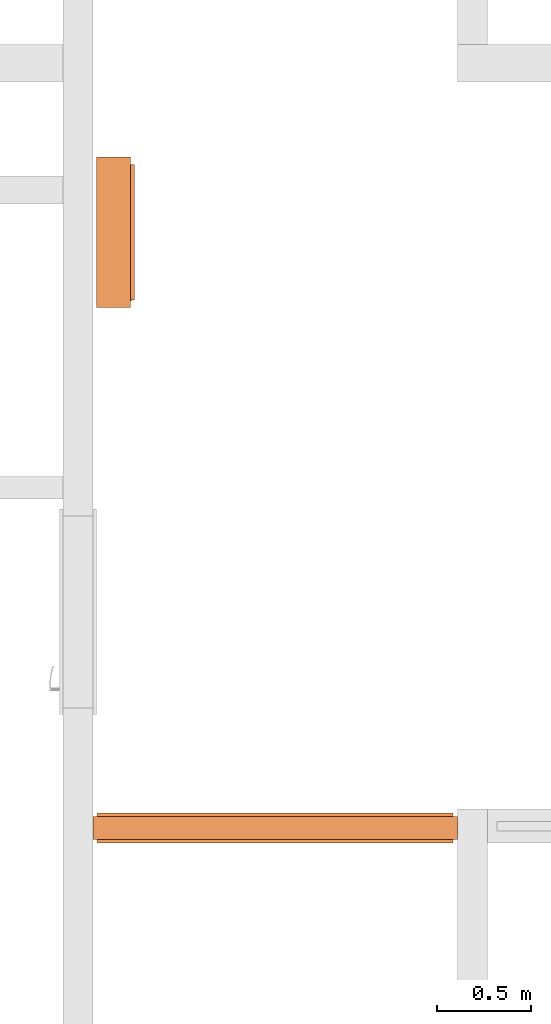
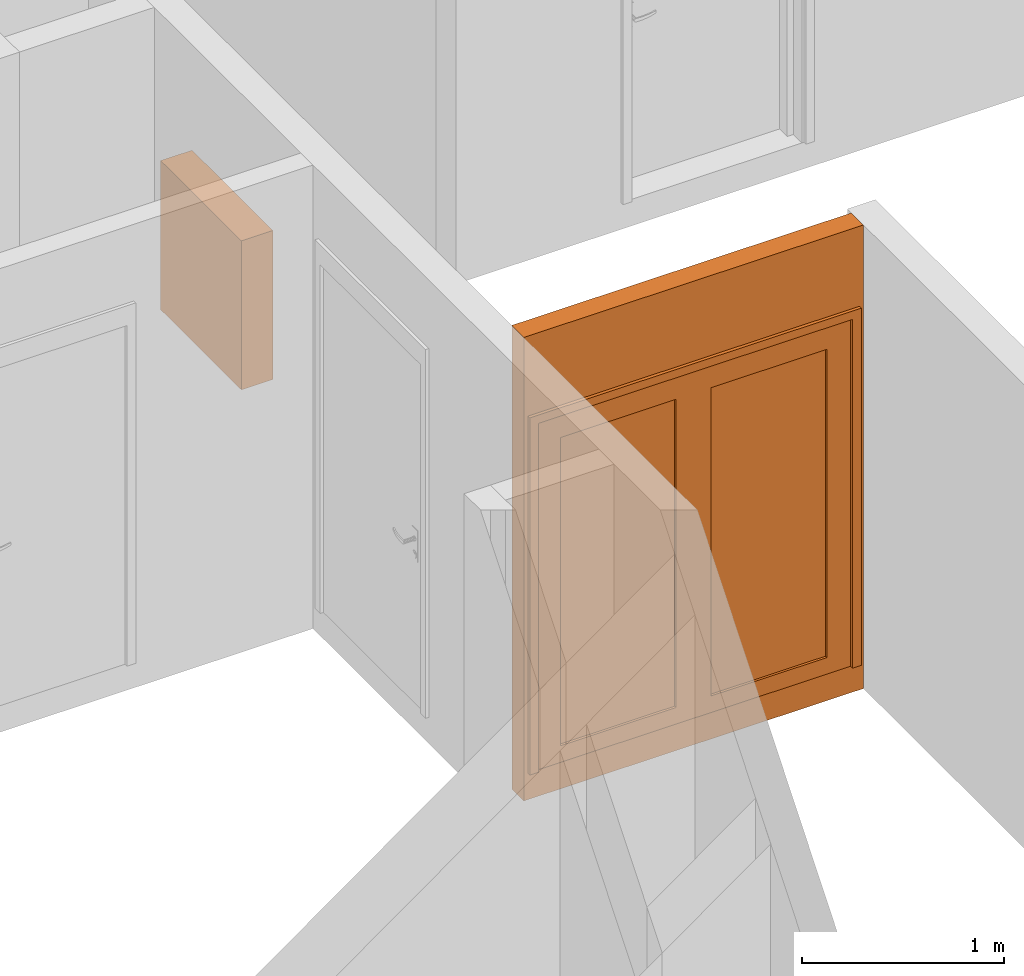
# One storey, part 14 of 64: 3 proxies, 1 opening.
"""IFC2X3 building model written with IfcOpenShell, lengths in millimetres."""

from ifc_helpers import new_model, entity, si_unit, converted_unit, derived_unit, money_unit, direction, frame, origin_with_axes, origin_2d_with_axis, place, context, subcontext, project, spatial, rectangle, extrude, open_shell, faceted_brep, surface_model, source, transform, mapped, material, type_object, element, fill, save


model = new_model("IFC2X3")

# Units and contexts
model_context = context("Model", 3, precision=0.01, world=origin_with_axes(), true_north=direction((0.34421633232, 0.938890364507)))
body_context = subcontext(model_context, "Body", "Model", "MODEL_VIEW")
ifc_project = project(units=[si_unit("LENGTHUNIT", "METRE", prefix="MILLI"), si_unit("AREAUNIT", "SQUARE_METRE"), si_unit("VOLUMEUNIT", "CUBIC_METRE"), converted_unit("PLANEANGLEUNIT", "DEGREE", entity("IfcPlaneAngleMeasure", 0.0174532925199), si_unit("PLANEANGLEUNIT", "RADIAN"), dimensions=[0, 0, 0, 0, 0, 0, 0]), si_unit("SOLIDANGLEUNIT", "STERADIAN"), money_unit("USD"), converted_unit("TIMEUNIT", "Year", entity("IfcTimeMeasure", 31556926.0), si_unit("TIMEUNIT", "SECOND"), dimensions=[0, 0, 1, 0, 0, 0, 0]), si_unit("MASSUNIT", "GRAM", prefix="KILO"), si_unit("THERMODYNAMICTEMPERATUREUNIT", "DEGREE_CELSIUS"), si_unit("LUMINOUSINTENSITYUNIT", "LUMEN"), si_unit("ENERGYUNIT", "JOULE", prefix="MEGA"), derived_unit("THERMALCONDUCTANCEUNIT", [(si_unit("POWERUNIT", "WATT"), 1), (si_unit("LENGTHUNIT", "METRE"), -1), (si_unit("THERMODYNAMICTEMPERATUREUNIT", "KELVIN"), -1)]), derived_unit("SPECIFICHEATCAPACITYUNIT", [(si_unit("ENERGYUNIT", "JOULE"), 1), (si_unit("MASSUNIT", "GRAM", prefix="KILO"), -1), (si_unit("THERMODYNAMICTEMPERATUREUNIT", "KELVIN"), -1)]), derived_unit("MASSDENSITYUNIT", [(si_unit("MASSUNIT", "GRAM", prefix="KILO"), 1), (si_unit("VOLUMEUNIT", "CUBIC_METRE"), -1)])], contexts=[model_context])

# Site, building, storey
site_placement = place(None, origin_with_axes())
site = spatial("IfcSite", under=ifc_project, at=site_placement, Name="USTRONIE MORSKIE", CompositionType="ELEMENT")
building_placement = place(site_placement, origin_with_axes())
building = spatial("IfcBuilding", under=site, at=building_placement, Name="Budynek", CompositionType="ELEMENT")
storey_placement = place(building_placement, frame((0.0, 0.0, 7000.0), z_axis=(0.0, 0.0, 1.0), x_axis=(1.0, 0.0, 0.0)))
storey = spatial("IfcBuildingStorey", under=building, at=storey_placement, Name="PIĘTRO 2", CompositionType="ELEMENT", Elevation=7000.0)

# Proxies, opening
ifc_material = material(Name="Bloczki silikatowe")
building_element_proxy_type_1 = type_object("IfcBuildingElementProxyType", Name="Bloczki silikatowe 120", PredefinedType="NOTDEFINED")
proxy_1_placement = place(storey_placement, frame((357517.920919, 734731.201951, -160.0), z_axis=(0.0, 0.0, 1.0), x_axis=(0.999999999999, -1.3878320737e-06, 0.0)))
proxy_1 = element("IfcBuildingElementProxy", 1, at=proxy_1_placement, inside=storey, type_object=building_element_proxy_type_1, material=ifc_material, Name="SW-04", context=body_context, shape_type="Brep", body=[
    faceted_brep([(2019.99991673, 60.0000000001, 0.0), (2020.00008327, -59.9999999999, 0.0), (80.00008327, -59.9999999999, 0.0), (79.9999167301, 60.0000000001, 0.0), (2019.99991673, 60.0000000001, 2800.0), (2020.00008327, -59.9999999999, 2800.0), (80.00008327, -59.9999999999, 2800.0), (79.9999167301, 60.0000000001, 2800.0)], [[[0, 1, 2, 3]], [[1, 0, 4, 5]], [[1, 5, 6, 2]], [[7, 3, 2, 6]], [[4, 0, 3, 7]], [[5, 4, 7, 6]]]),
])
opening_placement = place(proxy_1_placement, frame((1050.00013878, -1.13686837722e-10, 160.0), z_axis=(0.0, 0.0, 1.0), x_axis=(1.0, 0.0, 0.0)))
opening = element("IfcOpeningElement", 2, at=opening_placement, cuts=proxy_1, Name="Dw.5", context=body_context, shape_type="SweptSolid", body=[
    extrude(rectangle(XDim=1820.0, YDim=2120.0, at=origin_2d_with_axis()), frame((0.0, 120.0, 1060.0), z_axis=(0.0, 1.0, 0.0), x_axis=(1.0, 0.0, 0.0)), (0.0, 0.0, -1.0), 360.0),
    extrude(rectangle(XDim=1894.0, YDim=2157.0, at=origin_2d_with_axis()), frame((0.0, 60.0000000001, 1078.5), z_axis=(0.0, 1.0, 0.0), x_axis=(1.0, 0.0, 0.0)), (0.0, 0.0, 1.0), 120.0),
    extrude(rectangle(XDim=1894.0, YDim=2157.0, at=origin_2d_with_axis()), frame((0.0, -59.9999999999, 1078.5), z_axis=(0.0, -1.0, 0.0), x_axis=(1.0, 0.0, 0.0)), (0.0, 0.0, 1.0), 120.0),
])
building_element_proxy_type_2 = type_object("IfcBuildingElementProxyType", Name="Drzwi podwójne 23", PredefinedType="NOTDEFINED")
shared_shape_1 = source(origin_with_axes(), body_context, "Body", "SurfaceModel", [
    faceted_brep([(910.0, -115.0, 0.0), (910.0, -120.0, 0.0), (885.0, -120.0, 0.0), (885.0, -115.0, 0.0), (910.0, -115.0, 2120.0), (910.0, -120.0, 2120.0), (885.0, -120.0, 2095.0), (885.0, -115.0, 2095.0)], [[[0, 1, 2, 3]], [[4, 5, 1, 0]], [[1, 5, 6, 2]], [[3, 2, 6, 7]], [[0, 3, 7, 4]], [[7, 6, 5, 4]]]),
    faceted_brep([(-910.0, -115.0, 2120.0), (-910.0, -120.0, 2120.0), (-885.0, -120.0, 2095.0), (-885.0, -115.0, 2095.0), (-910.0, -115.0, 0.0), (-910.0, -120.0, 0.0), (-885.0, -120.0, 0.0), (-885.0, -115.0, 0.0)], [[[0, 1, 2, 3]], [[4, 5, 1, 0]], [[1, 5, 6, 2]], [[3, 2, 6, 7]], [[0, 3, 7, 4]], [[7, 6, 5, 4]]]),
    faceted_brep([(885.0, -115.0, 2095.0), (885.0, -120.0, 2095.0), (-885.0, -120.0, 2095.0), (-885.0, -115.0, 2095.0), (910.0, -115.0, 2120.0), (910.0, -120.0, 2120.0), (-910.0, -120.0, 2120.0), (-910.0, -115.0, 2120.0)], [[[0, 1, 2, 3]], [[4, 5, 1, 0]], [[1, 5, 6, 2]], [[3, 2, 6, 7]], [[0, 3, 7, 4]], [[7, 6, 5, 4]]]),
    faceted_brep([(947.0, -139.0, 0.0), (897.0, -139.0, 0.0), (897.0, -120.0, 0.0), (947.0, -120.0, 0.0), (947.0, -139.0, 2157.0), (897.0, -139.0, 2107.0), (897.0, -120.0, 2107.0), (947.0, -120.0, 2157.0)], [[[0, 1, 2, 3]], [[0, 4, 5, 1]], [[1, 5, 6, 2]], [[3, 2, 6, 7]], [[4, 0, 3, 7]], [[5, 4, 7, 6]]]),
    faceted_brep([(-947.0, -139.0, 2157.0), (-897.0, -139.0, 2107.0), (-897.0, -120.0, 2107.0), (-947.0, -120.0, 2157.0), (-947.0, -139.0, 0.0), (-897.0, -139.0, 0.0), (-897.0, -120.0, 0.0), (-947.0, -120.0, 0.0)], [[[0, 1, 2, 3]], [[0, 4, 5, 1]], [[1, 5, 6, 2]], [[3, 2, 6, 7]], [[4, 0, 3, 7]], [[5, 4, 7, 6]]]),
    faceted_brep([(947.0, -139.0, 2157.0), (897.0, -139.0, 2107.0), (897.0, -120.0, 2107.0), (947.0, -120.0, 2157.0), (-947.0, -139.0, 2157.0), (-897.0, -139.0, 2107.0), (-897.0, -120.0, 2107.0), (-947.0, -120.0, 2157.0)], [[[0, 1, 2, 3]], [[0, 4, 5, 1]], [[1, 5, 6, 2]], [[3, 2, 6, 7]], [[4, 0, 3, 7]], [[5, 4, 7, 6]]]),
    faceted_brep([(947.0, 19.0, 0.0), (947.0, 0.0, 0.0), (897.0, 0.0, 0.0), (897.0, 19.0, 0.0), (947.0, 19.0, 2157.0), (947.0, 0.0, 2157.0), (897.0, 0.0, 2107.0), (897.0, 19.0, 2107.0)], [[[0, 1, 2, 3]], [[4, 5, 1, 0]], [[1, 5, 6, 2]], [[3, 2, 6, 7]], [[0, 3, 7, 4]], [[7, 6, 5, 4]]]),
    faceted_brep([(-947.0, 19.0, 2157.0), (-947.0, 0.0, 2157.0), (-897.0, 0.0, 2107.0), (-897.0, 19.0, 2107.0), (-947.0, 19.0, 0.0), (-947.0, 0.0, 0.0), (-897.0, 0.0, 0.0), (-897.0, 19.0, 0.0)], [[[0, 1, 2, 3]], [[4, 5, 1, 0]], [[1, 5, 6, 2]], [[3, 2, 6, 7]], [[0, 3, 7, 4]], [[7, 6, 5, 4]]]),
    faceted_brep([(947.0, 19.0, 2157.0), (947.0, 0.0, 2157.0), (897.0, 0.0, 2107.0), (897.0, 19.0, 2107.0), (-947.0, 19.0, 2157.0), (-947.0, 0.0, 2157.0), (-897.0, 0.0, 2107.0), (-897.0, 19.0, 2107.0)], [[[0, 1, 2, 3]], [[4, 5, 1, 0]], [[1, 5, 6, 2]], [[3, 2, 6, 7]], [[0, 3, 7, 4]], [[7, 6, 5, 4]]]),
    faceted_brep([(850.0, -40.0, 0.0), (850.0, -115.0, 0.0), (850.0, -115.0, 2050.0), (850.0, -40.0, 2050.0), (862.0, -40.0, 0.0), (862.0, 0.0, 0.0), (910.0, 0.0, 0.0), (910.0, -115.0, 0.0), (910.0, -115.0, 2050.0), (862.0, -40.0, 2050.0), (910.0, 0.0, 2050.0), (862.0, 0.0, 2050.0)], [[[0, 1, 2, 3]], [[4, 5, 6, 7, 1, 0]], [[1, 7, 8, 2]], [[9, 3, 2, 8, 10, 11]], [[9, 4, 0, 3]], [[11, 5, 4, 9]], [[11, 10, 6, 5]], [[6, 10, 8, 7]]]),
    faceted_brep([(-862.0, -40.0, 2050.0), (-862.0, 0.0, 2050.0), (-910.0, 0.0, 2050.0), (-910.0, -115.0, 2050.0), (-850.0, -115.0, 2050.0), (-850.0, -40.0, 2050.0), (-862.0, -40.0, 0.0), (-862.0, 0.0, 0.0), (-910.0, 0.0, 0.0), (-910.0, -115.0, 0.0), (-850.0, -115.0, 0.0), (-850.0, -40.0, 0.0)], [[[0, 1, 2, 3, 4, 5]], [[0, 6, 7, 1]], [[7, 8, 2, 1]], [[2, 8, 9, 3]], [[3, 9, 10, 4]], [[5, 4, 10, 11]], [[5, 11, 6, 0]], [[6, 11, 10, 9, 8, 7]]]),
    faceted_brep([(862.0, 0.0, 2062.0), (-862.0, 0.0, 2062.0), (-862.0, 0.0, 2050.0), (-910.0, 0.0, 2050.0), (-910.0, 0.0, 2120.0), (910.0, 0.0, 2120.0), (910.0, 0.0, 2050.0), (862.0, 0.0, 2050.0), (862.0, -40.0, 2062.0), (-862.0, -40.0, 2062.0), (-862.0, -40.0, 2050.0), (-850.0, -40.0, 2050.0), (-850.0, -115.0, 2050.0), (-910.0, -115.0, 2050.0), (-910.0, -115.0, 2120.0), (910.0, -115.0, 2120.0), (910.0, -115.0, 2050.0), (862.0, -40.0, 2050.0), (850.0, -115.0, 2050.0), (850.0, -40.0, 2050.0)], [[[0, 1, 2, 3, 4, 5, 6, 7]], [[0, 8, 9, 1]], [[1, 9, 10, 2]], [[10, 11, 12, 13, 3, 2]], [[4, 3, 13, 14]], [[5, 4, 14, 15]], [[6, 5, 15, 16]], [[17, 7, 6, 16, 18, 19]], [[7, 17, 8, 0]], [[10, 9, 8, 17, 19, 11]], [[19, 18, 12, 11]], [[12, 18, 16, 15, 14, 13]]]),
    faceted_brep([(-862.0, 0.0, 100.0), (-762.0, 0.0, 100.0), (-762.0, -40.0, 100.0), (-862.0, -40.0, 100.0), (-862.0, 0.0, 1962.0), (-762.0, 0.0, 1962.0), (-762.0, -40.0, 1962.0), (-862.0, -40.0, 1962.0)], [[[0, 1, 2, 3]], [[0, 4, 5, 1]], [[1, 5, 6, 2]], [[3, 2, 6, 7]], [[4, 0, 3, 7]], [[5, 4, 7, 6]]]),
    faceted_brep([(0.0, 0.0, 100.0), (0.0, 0.0, 1962.0), (0.0, -40.0, 1962.0), (0.0, -40.0, 100.0), (-100.0, 0.0, 100.0), (-100.0, 0.0, 1962.0), (-100.0, -40.0, 1962.0), (-100.0, -40.0, 100.0)], [[[0, 1, 2, 3]], [[0, 4, 5, 1]], [[1, 5, 6, 2]], [[3, 2, 6, 7]], [[4, 0, 3, 7]], [[5, 4, 7, 6]]]),
    faceted_brep([(-862.0, 0.0, 0.0), (0.0, 0.0, 0.0), (0.0, -40.0, 0.0), (-862.0, -40.0, 0.0), (-862.0, 0.0, 100.0), (-762.0, 0.0, 100.0), (-100.0, 0.0, 100.0), (0.0, 0.0, 100.0), (0.0, -40.0, 100.0), (-100.0, -40.0, 100.0), (-762.0, -40.0, 100.0), (-862.0, -40.0, 100.0)], [[[0, 1, 2, 3]], [[0, 4, 5, 6, 7, 1]], [[1, 7, 8, 2]], [[3, 2, 8, 9, 10, 11]], [[4, 0, 3, 11]], [[5, 4, 11, 10]], [[6, 5, 10, 9]], [[7, 6, 9, 8]]]),
    faceted_brep([(-862.0, 0.0, 2062.0), (-862.0, 0.0, 1962.0), (-862.0, -40.0, 1962.0), (-862.0, -40.0, 2062.0), (0.0, 0.0, 2062.0), (0.0, 0.0, 1962.0), (-100.0, 0.0, 1962.0), (-762.0, 0.0, 1962.0), (-762.0, -40.0, 1962.0), (-100.0, -40.0, 1962.0), (0.0, -40.0, 1962.0), (0.0, -40.0, 2062.0)], [[[0, 1, 2, 3]], [[0, 4, 5, 6, 7, 1]], [[1, 7, 8, 2]], [[3, 2, 8, 9, 10, 11]], [[4, 0, 3, 11]], [[5, 4, 11, 10]], [[6, 5, 10, 9]], [[7, 6, 9, 8]]]),
    surface_model("IfcShellBasedSurfaceModel", [(-762.0, -14.0, 100.0), (-762.0, -14.0, 1962.0), (-100.0, -14.0, 1962.0), (-100.0, -14.0, 100.0)], [open_shell([[[0, 1, 2, 3]]])]),
    surface_model("IfcShellBasedSurfaceModel", [(-762.0, -26.0, 100.0), (-100.0, -26.0, 100.0), (-100.0, -26.0, 1962.0), (-762.0, -26.0, 1962.0)], [open_shell([[[0, 1, 2, 3]]])]),
    faceted_brep([(862.0, 0.0, 100.0), (862.0, -40.0, 100.0), (762.0, -40.0, 100.0), (762.0, 0.0, 100.0), (862.0, 0.0, 1962.0), (862.0, -40.0, 1962.0), (762.0, -40.0, 1962.0), (762.0, 0.0, 1962.0)], [[[0, 1, 2, 3]], [[4, 5, 1, 0]], [[1, 5, 6, 2]], [[3, 2, 6, 7]], [[0, 3, 7, 4]], [[7, 6, 5, 4]]]),
    faceted_brep([(0.0, 0.0, 100.0), (0.0, -40.0, 100.0), (0.0, -40.0, 1962.0), (0.0, 0.0, 1962.0), (100.0, 0.0, 100.0), (100.0, -40.0, 100.0), (100.0, -40.0, 1962.0), (100.0, 0.0, 1962.0)], [[[0, 1, 2, 3]], [[4, 5, 1, 0]], [[1, 5, 6, 2]], [[3, 2, 6, 7]], [[0, 3, 7, 4]], [[7, 6, 5, 4]]]),
    faceted_brep([(862.0, 0.0, 0.0), (862.0, -40.0, 0.0), (0.0, -40.0, 0.0), (0.0, 0.0, 0.0), (862.0, 0.0, 100.0), (862.0, -40.0, 100.0), (762.0, -40.0, 100.0), (100.0, -40.0, 100.0), (0.0, -40.0, 100.0), (0.0, 0.0, 100.0), (100.0, 0.0, 100.0), (762.0, 0.0, 100.0)], [[[0, 1, 2, 3]], [[4, 5, 1, 0]], [[1, 5, 6, 7, 8, 2]], [[3, 2, 8, 9]], [[0, 3, 9, 10, 11, 4]], [[11, 6, 5, 4]], [[10, 7, 6, 11]], [[9, 8, 7, 10]]]),
    faceted_brep([(862.0, 0.0, 2062.0), (862.0, -40.0, 2062.0), (862.0, -40.0, 1962.0), (862.0, 0.0, 1962.0), (0.0, 0.0, 2062.0), (0.0, -40.0, 2062.0), (0.0, -40.0, 1962.0), (100.0, -40.0, 1962.0), (762.0, -40.0, 1962.0), (762.0, 0.0, 1962.0), (100.0, 0.0, 1962.0), (0.0, 0.0, 1962.0)], [[[0, 1, 2, 3]], [[4, 5, 1, 0]], [[1, 5, 6, 7, 8, 2]], [[3, 2, 8, 9]], [[0, 3, 9, 10, 11, 4]], [[11, 6, 5, 4]], [[10, 7, 6, 11]], [[9, 8, 7, 10]]]),
    surface_model("IfcShellBasedSurfaceModel", [(762.0, -14.0, 100.0), (100.0, -14.0, 100.0), (100.0, -14.0, 1962.0), (762.0, -14.0, 1962.0)], [open_shell([[[0, 1, 2, 3]]])]),
    surface_model("IfcShellBasedSurfaceModel", [(762.0, -26.0, 100.0), (762.0, -26.0, 1962.0), (100.0, -26.0, 1962.0), (100.0, -26.0, 100.0)], [open_shell([[[0, 1, 2, 3]]])]),
])
proxy_2_placement = place(opening_placement, frame((850.0, 1.13686837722e-10, 0.0), z_axis=(0.0, 0.0, 1.0), x_axis=(-1.0, 0.0, 0.0)))
proxy_2 = element("IfcBuildingElementProxy", 3, at=proxy_2_placement, inside=storey, type_object=building_element_proxy_type_2, Name="Dw.5", context=body_context, shape_type="MappedRepresentation", body=[
    mapped(shared_shape_1, transform((850.0, 59.9999999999, 0.0))),
])
fill(opening, proxy_2)

# Proxy
building_element_proxy_type_3 = type_object("IfcBuildingElementProxyType", Name="Skrzynka P-Poż 23", PredefinedType="NOTDEFINED")
shared_shape_2 = source(origin_with_axes(), body_context, "Body", "Brep", [
    faceted_brep([(0.0, 40.0, 0.0), (800.0, 40.0, 0.0), (800.0, 20.0, 0.0), (0.0, 20.0, 0.0), (0.0, 40.0, 900.0), (800.0, 40.0, 900.0), (60.0, 40.0, 60.0), (740.0, 40.0, 60.0), (740.0, 40.0, 840.0), (60.0, 40.0, 840.0), (800.0, 20.0, 900.0), (0.0, 20.0, 900.0), (60.0, 20.0, 60.0), (60.0, 20.0, 840.0), (740.0, 20.0, 840.0), (740.0, 20.0, 60.0)], [[[0, 1, 2, 3]], [[0, 4, 5, 1], [6, 7, 8, 9]], [[1, 5, 10, 2]], [[3, 2, 10, 11], [12, 13, 14, 15]], [[4, 0, 3, 11]], [[5, 4, 11, 10]], [[7, 6, 12, 15]], [[8, 7, 15, 14]], [[9, 8, 14, 13]], [[6, 9, 13, 12]]]),
    faceted_brep([(40.0, 20.0, 40.0), (760.0, 20.0, 40.0), (760.0, 0.0, 40.0), (40.0, 0.0, 40.0), (40.0, 20.0, 860.0), (760.0, 20.0, 860.0), (80.0, 20.0, 80.0), (720.0, 20.0, 80.0), (720.0, 20.0, 820.0), (80.0, 20.0, 820.0), (760.0, 0.0, 860.0), (40.0, 0.0, 860.0), (80.0, 0.0, 80.0), (80.0, 0.0, 820.0), (720.0, 0.0, 820.0), (720.0, 0.0, 80.0)], [[[0, 1, 2, 3]], [[0, 4, 5, 1], [6, 7, 8, 9]], [[1, 5, 10, 2]], [[3, 2, 10, 11], [12, 13, 14, 15]], [[4, 0, 3, 11]], [[5, 4, 11, 10]], [[7, 6, 12, 15]], [[8, 7, 15, 14]], [[9, 8, 14, 13]], [[6, 9, 13, 12]]]),
    faceted_brep([(0.0, 180.0, 0.0), (800.0, 180.0, 0.0), (800.0, 40.0, 0.0), (0.0, 40.0, 0.0), (0.0, 180.0, 900.0), (800.0, 180.0, 900.0), (20.0, 180.0, 20.0), (780.0, 180.0, 20.0), (780.0, 180.0, 880.0), (20.0, 180.0, 880.0), (800.0, 40.0, 900.0), (0.0, 40.0, 900.0), (20.0, 40.0, 20.0), (20.0, 40.0, 880.0), (780.0, 40.0, 880.0), (780.0, 40.0, 20.0)], [[[0, 1, 2, 3]], [[0, 4, 5, 1], [6, 7, 8, 9]], [[1, 5, 10, 2]], [[3, 2, 10, 11], [12, 13, 14, 15]], [[4, 0, 3, 11]], [[5, 4, 11, 10]], [[7, 6, 12, 15]], [[8, 7, 15, 14]], [[9, 8, 14, 13]], [[6, 9, 13, 12]]]),
    faceted_brep([(0.0, 200.0, 0.0), (800.0, 200.0, 0.0), (800.0, 180.0, 0.0), (0.0, 180.0, 0.0), (0.0, 200.0, 900.0), (800.0, 200.0, 900.0), (800.0, 180.0, 900.0), (0.0, 180.0, 900.0)], [[[0, 1, 2, 3]], [[0, 4, 5, 1]], [[1, 5, 6, 2]], [[3, 2, 6, 7]], [[4, 0, 3, 7]], [[5, 4, 7, 6]]]),
    faceted_brep([(80.0, 15.0, 80.0), (720.0, 15.0, 80.0), (720.0, 5.0, 80.0), (80.0, 5.0, 80.0), (80.0, 15.0, 820.0), (720.0, 15.0, 820.0), (720.0, 5.0, 820.0), (80.0, 5.0, 820.0)], [[[0, 1, 2, 3]], [[0, 4, 5, 1]], [[1, 5, 6, 2]], [[3, 2, 6, 7]], [[4, 0, 3, 7]], [[5, 4, 7, 6]]]),
    faceted_brep([(749.659258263, 0.0, 447.411809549), (748.660254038, 0.0, 445.0), (747.071067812, 0.0, 442.928932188), (745.0, 0.0, 441.339745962), (742.588190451, 0.0, 440.340741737), (740.0, 0.0, 440.0), (737.411809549, 0.0, 440.340741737), (735.0, 0.0, 441.339745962), (732.928932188, 0.0, 442.928932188), (731.339745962, 0.0, 445.0), (730.340741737, 0.0, 447.411809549), (730.0, 0.0, 450.0), (730.340741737, 0.0, 452.588190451), (731.339745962, 0.0, 455.0), (732.928932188, 0.0, 457.071067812), (735.0, 0.0, 458.660254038), (737.411809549, 0.0, 459.659258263), (740.0, 0.0, 460.0), (742.588190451, 0.0, 459.659258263), (745.0, 0.0, 458.660254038), (747.071067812, 0.0, 457.071067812), (748.660254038, 0.0, 455.0), (749.659258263, 0.0, 452.588190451), (750.0, 0.0, 450.0), (749.659258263, -2.0, 447.411809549), (748.660254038, -2.0, 445.0), (747.071067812, -2.0, 442.928932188), (745.0, -2.0, 441.339745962), (742.588190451, -2.0, 440.340741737), (740.0, -2.0, 440.0), (737.411809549, -2.0, 440.340741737), (735.0, -2.0, 441.339745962), (732.928932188, -2.0, 442.928932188), (731.339745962, -2.0, 445.0), (730.340741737, -2.0, 447.411809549), (730.0, -2.0, 450.0), (730.340741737, -2.0, 452.588190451), (731.339745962, -2.0, 455.0), (732.928932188, -2.0, 457.071067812), (735.0, -2.0, 458.660254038), (737.411809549, -2.0, 459.659258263), (740.0, -2.0, 460.0), (742.588190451, -2.0, 459.659258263), (745.0, -2.0, 458.660254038), (747.071067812, -2.0, 457.071067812), (748.660254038, -2.0, 455.0), (749.659258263, -2.0, 452.588190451), (750.0, -2.0, 450.0)], [[[0, 1, 2, 3, 4, 5, 6, 7, 8, 9, 10, 11, 12, 13, 14, 15, 16, 17, 18, 19, 20, 21, 22, 23]], [[1, 0, 24, 25]], [[2, 1, 25, 26]], [[3, 2, 26, 27]], [[4, 3, 27, 28]], [[5, 4, 28, 29]], [[6, 5, 29, 30]], [[7, 6, 30, 31]], [[8, 7, 31, 32]], [[9, 8, 32, 33]], [[10, 9, 33, 34]], [[11, 10, 34, 35]], [[12, 11, 35, 36]], [[13, 12, 36, 37]], [[14, 13, 37, 38]], [[15, 14, 38, 39]], [[16, 15, 39, 40]], [[17, 16, 40, 41]], [[18, 17, 41, 42]], [[19, 18, 42, 43]], [[20, 19, 43, 44]], [[21, 20, 44, 45]], [[22, 21, 45, 46]], [[23, 22, 46, 47]], [[0, 23, 47, 24]], [[24, 47, 46, 45, 44, 43, 42, 41, 40, 39, 38, 37, 36, 35, 34, 33, 32, 31, 30, 29, 28, 27, 26, 25]]]),
    faceted_brep([(39.8977774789, 16.2235428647, 80.0), (39.5980762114, 15.5, 80.0), (39.1213203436, 14.8786796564, 80.0), (38.5, 14.4019237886, 80.0), (37.7764571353, 14.1022225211, 80.0), (37.0, 14.0, 80.0), (36.2235428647, 14.1022225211, 80.0), (35.5, 14.4019237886, 80.0), (34.8786796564, 14.8786796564, 80.0), (34.4019237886, 15.5, 80.0), (34.1022225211, 16.2235428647, 80.0), (34.0, 17.0, 80.0), (34.1022225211, 17.7764571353, 80.0), (34.4019237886, 18.5, 80.0), (34.8786796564, 19.1213203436, 80.0), (35.5, 19.5980762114, 80.0), (36.2235428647, 19.8977774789, 80.0), (37.0, 20.0, 80.0), (37.7764571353, 19.8977774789, 80.0), (38.5, 19.5980762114, 80.0), (39.1213203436, 19.1213203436, 80.0), (39.5980762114, 18.5, 80.0), (39.8977774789, 17.7764571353, 80.0), (40.0, 17.0, 80.0), (39.8977774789, 16.2235428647, 120.0), (39.5980762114, 15.5, 120.0), (39.1213203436, 14.8786796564, 120.0), (38.5, 14.4019237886, 120.0), (37.7764571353, 14.1022225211, 120.0), (37.0, 14.0, 120.0), (36.2235428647, 14.1022225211, 120.0), (35.5, 14.4019237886, 120.0), (34.8786796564, 14.8786796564, 120.0), (34.4019237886, 15.5, 120.0), (34.1022225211, 16.2235428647, 120.0), (34.0, 17.0, 120.0), (34.1022225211, 17.7764571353, 120.0), (34.4019237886, 18.5, 120.0), (34.8786796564, 19.1213203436, 120.0), (35.5, 19.5980762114, 120.0), (36.2235428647, 19.8977774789, 120.0), (37.0, 20.0, 120.0), (37.7764571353, 19.8977774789, 120.0), (38.5, 19.5980762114, 120.0), (39.1213203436, 19.1213203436, 120.0), (39.5980762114, 18.5, 120.0), (39.8977774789, 17.7764571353, 120.0), (40.0, 17.0, 120.0)], [[[0, 1, 2, 3, 4, 5, 6, 7, 8, 9, 10, 11, 12, 13, 14, 15, 16, 17, 18, 19, 20, 21, 22, 23]], [[1, 0, 24, 25]], [[2, 1, 25, 26]], [[3, 2, 26, 27]], [[4, 3, 27, 28]], [[5, 4, 28, 29]], [[6, 5, 29, 30]], [[7, 6, 30, 31]], [[8, 7, 31, 32]], [[9, 8, 32, 33]], [[10, 9, 33, 34]], [[11, 10, 34, 35]], [[12, 11, 35, 36]], [[13, 12, 36, 37]], [[14, 13, 37, 38]], [[15, 14, 38, 39]], [[16, 15, 39, 40]], [[17, 16, 40, 41]], [[18, 17, 41, 42]], [[19, 18, 42, 43]], [[20, 19, 43, 44]], [[21, 20, 44, 45]], [[22, 21, 45, 46]], [[23, 22, 46, 47]], [[0, 23, 47, 24]], [[24, 47, 46, 45, 44, 43, 42, 41, 40, 39, 38, 37, 36, 35, 34, 33, 32, 31, 30, 29, 28, 27, 26, 25]]]),
    faceted_brep([(39.8977774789, 16.2235428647, 780.0), (39.5980762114, 15.5, 780.0), (39.1213203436, 14.8786796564, 780.0), (38.5, 14.4019237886, 780.0), (37.7764571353, 14.1022225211, 780.0), (37.0, 14.0, 780.0), (36.2235428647, 14.1022225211, 780.0), (35.5, 14.4019237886, 780.0), (34.8786796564, 14.8786796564, 780.0), (34.4019237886, 15.5, 780.0), (34.1022225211, 16.2235428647, 780.0), (34.0, 17.0, 780.0), (34.1022225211, 17.7764571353, 780.0), (34.4019237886, 18.5, 780.0), (34.8786796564, 19.1213203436, 780.0), (35.5, 19.5980762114, 780.0), (36.2235428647, 19.8977774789, 780.0), (37.0, 20.0, 780.0), (37.7764571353, 19.8977774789, 780.0), (38.5, 19.5980762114, 780.0), (39.1213203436, 19.1213203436, 780.0), (39.5980762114, 18.5, 780.0), (39.8977774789, 17.7764571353, 780.0), (40.0, 17.0, 780.0), (39.8977774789, 16.2235428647, 820.0), (39.5980762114, 15.5, 820.0), (39.1213203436, 14.8786796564, 820.0), (38.5, 14.4019237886, 820.0), (37.7764571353, 14.1022225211, 820.0), (37.0, 14.0, 820.0), (36.2235428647, 14.1022225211, 820.0), (35.5, 14.4019237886, 820.0), (34.8786796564, 14.8786796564, 820.0), (34.4019237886, 15.5, 820.0), (34.1022225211, 16.2235428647, 820.0), (34.0, 17.0, 820.0), (34.1022225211, 17.7764571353, 820.0), (34.4019237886, 18.5, 820.0), (34.8786796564, 19.1213203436, 820.0), (35.5, 19.5980762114, 820.0), (36.2235428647, 19.8977774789, 820.0), (37.0, 20.0, 820.0), (37.7764571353, 19.8977774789, 820.0), (38.5, 19.5980762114, 820.0), (39.1213203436, 19.1213203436, 820.0), (39.5980762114, 18.5, 820.0), (39.8977774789, 17.7764571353, 820.0), (40.0, 17.0, 820.0)], [[[0, 1, 2, 3, 4, 5, 6, 7, 8, 9, 10, 11, 12, 13, 14, 15, 16, 17, 18, 19, 20, 21, 22, 23]], [[1, 0, 24, 25]], [[2, 1, 25, 26]], [[3, 2, 26, 27]], [[4, 3, 27, 28]], [[5, 4, 28, 29]], [[6, 5, 29, 30]], [[7, 6, 30, 31]], [[8, 7, 31, 32]], [[9, 8, 32, 33]], [[10, 9, 33, 34]], [[11, 10, 34, 35]], [[12, 11, 35, 36]], [[13, 12, 36, 37]], [[14, 13, 37, 38]], [[15, 14, 38, 39]], [[16, 15, 39, 40]], [[17, 16, 40, 41]], [[18, 17, 41, 42]], [[19, 18, 42, 43]], [[20, 19, 43, 44]], [[21, 20, 44, 45]], [[22, 21, 45, 46]], [[23, 22, 46, 47]], [[0, 23, 47, 24]], [[24, 47, 46, 45, 44, 43, 42, 41, 40, 39, 38, 37, 36, 35, 34, 33, 32, 31, 30, 29, 28, 27, 26, 25]]]),
])
proxy_3_placement = place(storey_placement, frame((357817.920919, 737501.1917, 600.0), z_axis=(0.0, 0.0, 1.0), x_axis=(0.0, 1.0, 0.0)))
element("IfcBuildingElementProxy", 4, at=proxy_3_placement, inside=storey, type_object=building_element_proxy_type_3, Name="OB3", context=body_context, shape_type="MappedRepresentation", body=[
    mapped(shared_shape_2, transform((0.0, 0.0, 0.0))),
])

save(model, "model.ifc")
